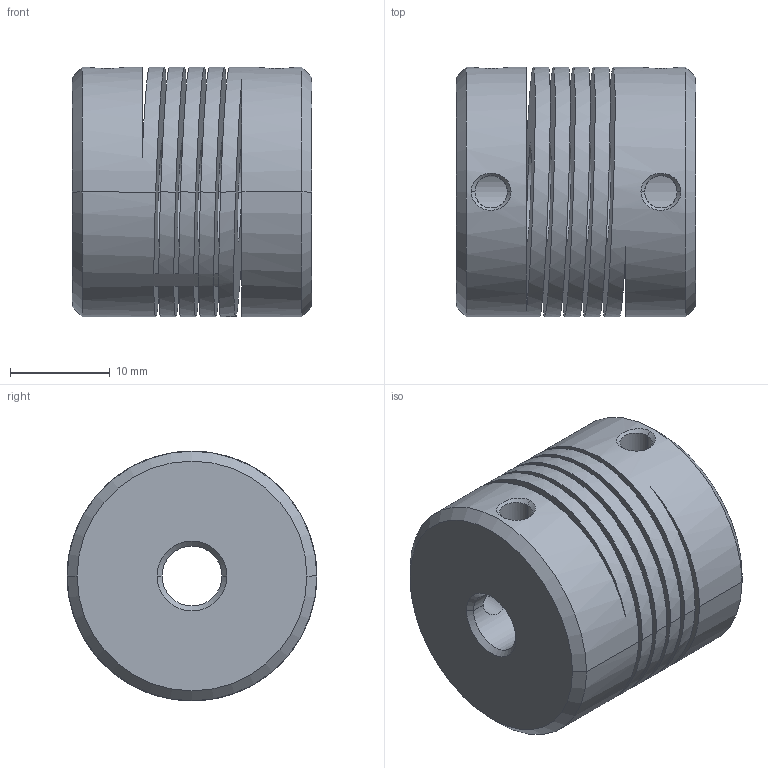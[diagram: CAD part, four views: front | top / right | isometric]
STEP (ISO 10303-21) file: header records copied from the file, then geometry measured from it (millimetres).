
FILE_DESCRIPTION( ( '' ), '1' );
FILE_NAME( '//partserver001.servicenet/client_exchange/iodir/jobs/output/wkb18291208_no2/STEP/e60028_2_03.stp', '2009-08-27T13:40:38', ( '' ), ( '' ), ' ', ' ', ' ' );
FILE_SCHEMA( ( 'CONFIG_CONTROL_DESIGN' ) );
Length unit declared in the file: millimetre
Products named in the file (1): 1
Bounding box: 24 x 25 x 25 mm (x, y, z)
Volume: 8814.5 mm3; surface area: 7829.8 mm2
Topology: 1 solids, 1 shells, 61 faces, 184 edges, 119 vertices
Faces by surface type: cylinder 27, plane 18, cone 16
Entity records: 2669 total; most frequent: CARTESIAN_POINT 885, DIRECTION 379, ORIENTED_EDGE 368, EDGE_CURVE 184, AXIS2_PLACEMENT_3D 153, VERTEX_POINT 119, EDGE_LOOP 77, LINE 73
